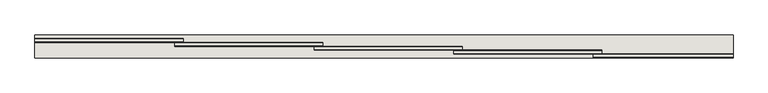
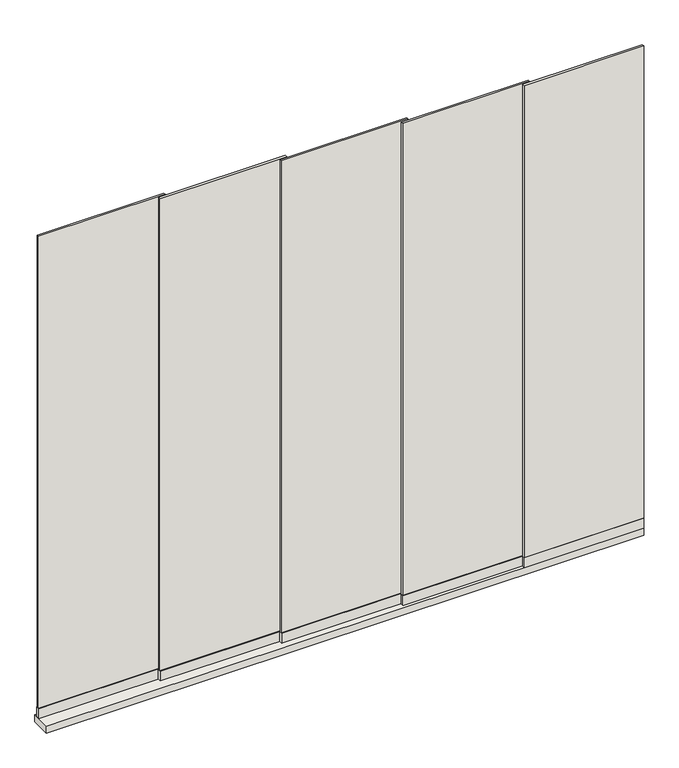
"""IFC4 building model written with IfcOpenShell, lengths in millimetres: wall geometry, Renson_Amani_Glass_Sliding_Panel : Renson_Amani_Glass_Sliding_Panel."""

from ifc_helpers import new_model, si_unit, frame, origin, origin_with_axes, place, context, project, spatial, polyline, outline, extrude, source, transform, mapped, element, save


def wall_681c5937(model_context):
    return source(origin(), model_context, "Body", "SweptSolid", [
        extrude(outline(polyline([(-949.0, 48.0), (-1562.0, 48.0), (-1562.0, 64.0), (-949.0, 64.0), (-949.0, 48.0)])), frame((0.0, 0.0, 35.0), z_axis=(0.0, 0.0, 1.0), x_axis=(1.0, 0.0, 0.0)), (0.0, 0.0, 1.0), 51.0),
        extrude(outline(polyline([(-1527.0, 64.0), (-2140.0, 64.0), (-2140.0, 80.0), (-1527.0, 80.0), (-1527.0, 64.0)])), frame((0.0, 0.0, 35.0), z_axis=(0.0, 0.0, 1.0), x_axis=(1.0, 0.0, 0.0)), (0.0, 0.0, 1.0), 51.0),
        extrude(outline(polyline([(-949.0, 51.0), (-1562.0, 51.0), (-1562.0, 61.0), (-949.0, 61.0), (-949.0, 51.0)])), frame((0.0, 0.0, 86.0), z_axis=(0.0, 0.0, 1.0), x_axis=(1.0, 0.0, 0.0)), (0.0, 0.0, 1.0), 2414.0),
        extrude(outline(polyline([(750.0, 0.0), (-2140.0, 0.0), (-2140.0, 96.0), (750.0, 96.0), (750.0, 0.0)])), origin_with_axes(), (0.0, 0.0, 1.0), 35.0),
        extrude(outline(polyline([(750.0, 3.0), (172.0, 3.0), (172.0, 13.0), (750.0, 13.0), (750.0, 3.0)])), frame((0.0, 0.0, 86.0), z_axis=(0.0, 0.0, 1.0), x_axis=(1.0, 0.0, 0.0)), (0.0, 0.0, 1.0), 2414.0),
        extrude(outline(polyline([(207.0, 19.0), (-406.0, 19.0), (-406.0, 29.0), (207.0, 29.0), (207.0, 19.0)])), frame((0.0, 0.0, 86.0), z_axis=(0.0, 0.0, 1.0), x_axis=(1.0, 0.0, 0.0)), (0.0, 0.0, 1.0), 2414.0),
        extrude(outline(polyline([(-1527.0, 67.0), (-2140.0, 67.0), (-2140.0, 77.0), (-1527.0, 77.0), (-1527.0, 67.0)])), frame((0.0, 0.0, 86.0), z_axis=(0.0, 0.0, 1.0), x_axis=(1.0, 0.0, 0.0)), (0.0, 0.0, 1.0), 2414.0),
        extrude(outline(polyline([(-371.0, 35.0), (-984.0, 35.0), (-984.0, 45.0), (-371.0, 45.0), (-371.0, 35.0)])), frame((0.0, 0.0, 86.0), z_axis=(0.0, 0.0, 1.0), x_axis=(1.0, 0.0, 0.0)), (0.0, 0.0, 1.0), 2414.0),
        extrude(outline(polyline([(750.0, 0.0), (172.0, 0.0), (172.0, 16.0), (750.0, 16.0), (750.0, 0.0)])), frame((0.0, 0.0, 35.0), z_axis=(0.0, 0.0, 1.0), x_axis=(1.0, 0.0, 0.0)), (0.0, 0.0, 1.0), 51.0),
        extrude(outline(polyline([(207.0, 16.0), (-406.0, 16.0), (-406.0, 32.0), (207.0, 32.0), (207.0, 16.0)])), frame((0.0, 0.0, 35.0), z_axis=(0.0, 0.0, 1.0), x_axis=(1.0, 0.0, 0.0)), (0.0, 0.0, 1.0), 51.0),
        extrude(outline(polyline([(-371.0, 32.0), (-984.0, 32.0), (-984.0, 48.0), (-371.0, 48.0), (-371.0, 32.0)])), frame((0.0, 0.0, 35.0), z_axis=(0.0, 0.0, 1.0), x_axis=(1.0, 0.0, 0.0)), (0.0, 0.0, 1.0), 51.0),
    ])


if __name__ == "__main__":
    model = new_model("IFC4")
    model_context = context("Model", 3, world=origin())
    ifc_project = project(units=[si_unit("LENGTHUNIT", "METRE", prefix="MILLI")], contexts=[model_context])
    site = spatial("IfcSite", under=ifc_project)
    building = spatial("IfcBuilding", under=site)
    placement = place(None, origin())
    wall_shape = wall_681c5937(model_context)
    element("IfcWall", 1, ObjectType="Renson_Amani_Glass_Sliding_Panel : Renson_Amani_Glass_Sliding_Panel", at=placement, inside=building, context=model_context, shape_type="MappedRepresentation", body=[
        mapped(wall_shape, transform((0.0, 0.0, 0.0), x_axis=(1.0, 0.0, 0.0), y_axis=(0.0, 1.0, 0.0), z_axis=(0.0, 0.0, 1.0))),
    ])
    save(model, "model.ifc")
